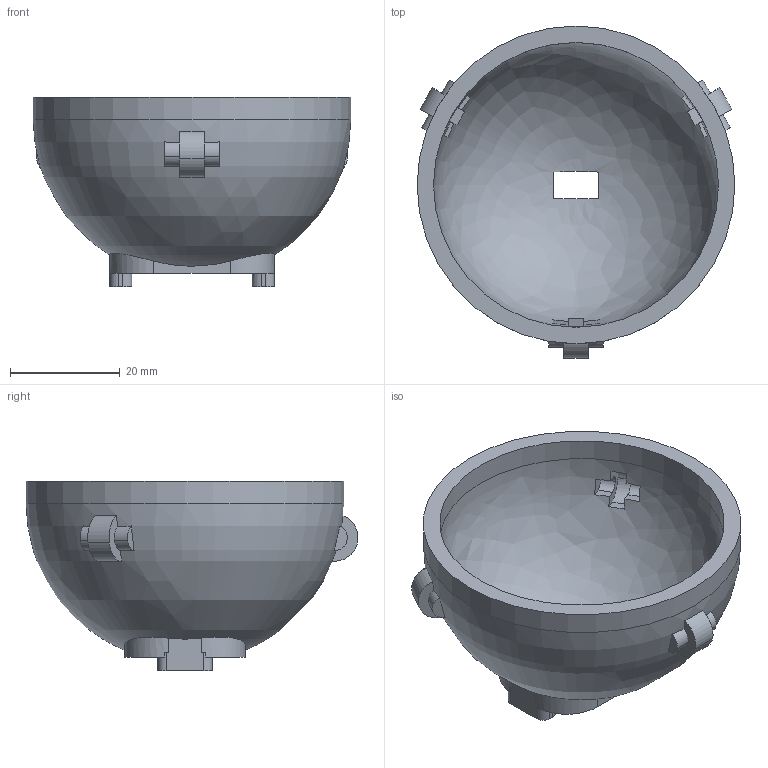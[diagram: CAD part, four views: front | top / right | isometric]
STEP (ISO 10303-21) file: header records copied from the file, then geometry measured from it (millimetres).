
FILE_DESCRIPTION(('Open CASCADE Model'),'2;1');
FILE_NAME('Open CASCADE Shape Model','2026-05-31T19:43:47',('Author'),( 'Open CASCADE'),'Open CASCADE STEP processor 7.6','Open CASCADE 7.6' ,'Unknown');
FILE_SCHEMA(('AP242_MANAGED_MODEL_BASED_3D_ENGINEERING_MIM_LF. {1 0 10303 442 1 1 4 }'));
Length unit declared in the file: millimetre
Products named in the file (1): Open CASCADE STEP translator 7.6 13
Bounding box: 58 x 60.58 x 34.6 mm (x, y, z)
Volume: 16540.5 mm3; surface area: 12454 mm2
Topology: 1 solids, 1 shells, 140 faces, 392 edges, 260 vertices
Faces by surface type: plane 74, extrusion 36, cylinder 22, bspline 4, revolution 2, cone 2
Full cylindrical faces by diameter (mm): 2.05 x2, 52 x1, 58 x1
Entity records: 19462 total; most frequent: CARTESIAN_POINT 12041, DIRECTION 1248, ORIENTED_EDGE 780, PCURVE 780, DEFINITIONAL_REPRESENTATION 780, VECTOR 658, LINE 622, EDGE_CURVE 390
